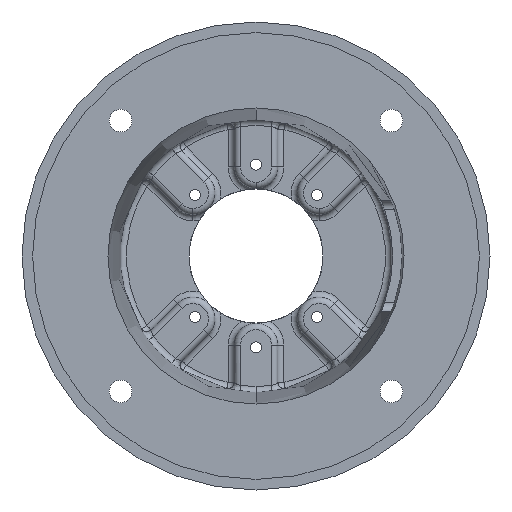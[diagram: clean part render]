
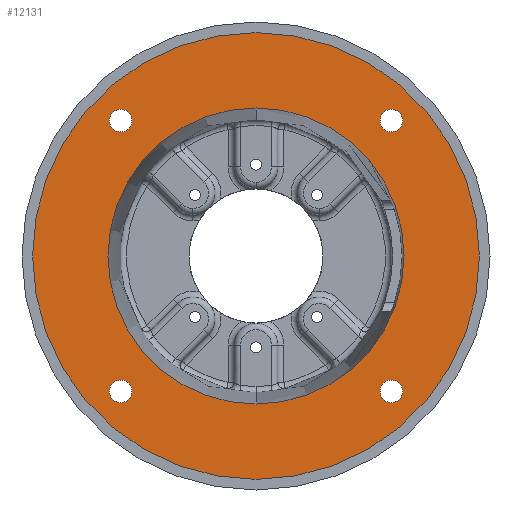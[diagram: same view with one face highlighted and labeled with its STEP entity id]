
A CAD part, front view. The second image highlights one B-rep face of the part: STEP entity #12131.
In plain terms, the highlighted planar face has unit normal (0, -1, 0).
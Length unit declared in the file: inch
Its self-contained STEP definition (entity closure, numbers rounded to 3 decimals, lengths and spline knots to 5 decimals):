
#52 = VERTEX_POINT ( 'NONE', #5009 ) ;
#292 = CARTESIAN_POINT ( 'NONE',  ( 0., 0.18, 5.2505 ) ) ;
#504 = EDGE_CURVE ( 'NONE', #12683, #8156, #12956, .T. ) ;
#553 = EDGE_CURVE ( 'NONE', #52, #11921, #3878, .T. ) ;
#559 = CIRCLE ( 'NONE', #5898, 0.26562 ) ;
#734 = CARTESIAN_POINT ( 'NONE',  ( 3.18198, 0.18, 3.18198 ) ) ;
#1003 = AXIS2_PLACEMENT_3D ( 'NONE', #4483, #4469, #4449 ) ;
#1056 = DIRECTION ( 'NONE',  ( 0., -1., 0. ) ) ;
#1098 = EDGE_CURVE ( 'NONE', #12858, #9144, #5589, .T. ) ;
#1247 = FACE_BOUND ( 'NONE', #11227, .T. ) ;
#1255 = EDGE_CURVE ( 'NONE', #11921, #52, #1951, .T. ) ;
#1276 = EDGE_LOOP ( 'NONE', ( #12223, #11720 ) ) ;
#1343 = CARTESIAN_POINT ( 'NONE',  ( 0., 0.18, 0. ) ) ;
#1382 = DIRECTION ( 'NONE',  ( 0., -1., 0. ) ) ;
#1600 = CIRCLE ( 'NONE', #2992, 0.26562 ) ;
#1778 = CARTESIAN_POINT ( 'NONE',  ( -3.18198, 0.18, -3.44761 ) ) ;
#1882 = DIRECTION ( 'NONE',  ( 0., 0., -1. ) ) ;
#1951 = CIRCLE ( 'NONE', #12680, 0.26562 ) ;
#2476 = DIRECTION ( 'NONE',  ( 0., 0., -1. ) ) ;
#2675 = CIRCLE ( 'NONE', #10483, 5.2505 ) ;
#2813 = DIRECTION ( 'NONE',  ( 0., 0., -1. ) ) ;
#2865 = DIRECTION ( 'NONE',  ( 0., -1., 0. ) ) ;
#2880 = ORIENTED_EDGE ( 'NONE', *, *, #1098, .F. ) ;
#2925 = EDGE_CURVE ( 'NONE', #8567, #10493, #3187, .T. ) ;
#2926 = CARTESIAN_POINT ( 'NONE',  ( -3.18198, 0.18, 2.91636 ) ) ;
#2969 = AXIS2_PLACEMENT_3D ( 'NONE', #9568, #3109, #10621 ) ;
#2992 = AXIS2_PLACEMENT_3D ( 'NONE', #3298, #10791, #4428 ) ;
#3036 = EDGE_LOOP ( 'NONE', ( #11424, #5310 ) ) ;
#3109 = DIRECTION ( 'NONE',  ( 0., -1., 0. ) ) ;
#3187 = CIRCLE ( 'NONE', #2969, 0.26562 ) ;
#3298 = CARTESIAN_POINT ( 'NONE',  ( -3.18198, 0.18, -3.18198 ) ) ;
#3632 = VERTEX_POINT ( 'NONE', #292 ) ;
#3797 = CARTESIAN_POINT ( 'NONE',  ( -3.18198, 0.18, 3.18198 ) ) ;
#3878 = CIRCLE ( 'NONE', #1003, 0.26562 ) ;
#4389 = CARTESIAN_POINT ( 'NONE',  ( 0., 0.18, 0. ) ) ;
#4428 = DIRECTION ( 'NONE',  ( 0., 0., -1. ) ) ;
#4449 = DIRECTION ( 'NONE',  ( 0., 0., -1. ) ) ;
#4469 = DIRECTION ( 'NONE',  ( 0., -1., 0. ) ) ;
#4483 = CARTESIAN_POINT ( 'NONE',  ( 3.18198, 0.18, -3.18198 ) ) ;
#4604 = DIRECTION ( 'NONE',  ( 0., 1., 0. ) ) ;
#4949 = AXIS2_PLACEMENT_3D ( 'NONE', #3797, #2865, #2813 ) ;
#5009 = CARTESIAN_POINT ( 'NONE',  ( 3.18198, 0.18, -2.91636 ) ) ;
#5190 = EDGE_CURVE ( 'NONE', #10493, #8567, #1600, .T. ) ;
#5310 = ORIENTED_EDGE ( 'NONE', *, *, #553, .F. ) ;
#5503 = PLANE ( 'NONE',  #8577 ) ;
#5582 = CARTESIAN_POINT ( 'NONE',  ( 0., 0.18, 0. ) ) ;
#5589 = CIRCLE ( 'NONE', #4949, 0.26562 ) ;
#5676 = ORIENTED_EDGE ( 'NONE', *, *, #9230, .T. ) ;
#5846 = DIRECTION ( 'NONE',  ( 0., -1., 0. ) ) ;
#5898 = AXIS2_PLACEMENT_3D ( 'NONE', #12129, #5846, #13162 ) ;
#5963 = EDGE_LOOP ( 'NONE', ( #5676, #13440 ) ) ;
#6072 = CARTESIAN_POINT ( 'NONE',  ( 0., 0.18, -5.2505 ) ) ;
#6107 = CARTESIAN_POINT ( 'NONE',  ( 3.18198, 0.18, -3.44761 ) ) ;
#6110 = CARTESIAN_POINT ( 'NONE',  ( -3.18198, 0.18, 3.44761 ) ) ;
#6380 = VERTEX_POINT ( 'NONE', #13174 ) ;
#6592 = DIRECTION ( 'NONE',  ( 0., 0., -1. ) ) ;
#6606 = DIRECTION ( 'NONE',  ( 0., 1., 0. ) ) ;
#6671 = DIRECTION ( 'NONE',  ( 0., 0., -1. ) ) ;
#6698 = CARTESIAN_POINT ( 'NONE',  ( 0., 0.18, 0. ) ) ;
#6804 = CIRCLE ( 'NONE', #12602, 5.2505 ) ;
#7046 = ORIENTED_EDGE ( 'NONE', *, *, #12610, .F. ) ;
#7060 = EDGE_CURVE ( 'NONE', #9144, #12858, #10918, .T. ) ;
#7106 = FACE_BOUND ( 'NONE', #3036, .T. ) ;
#7221 = ORIENTED_EDGE ( 'NONE', *, *, #10068, .F. ) ;
#7323 = EDGE_LOOP ( 'NONE', ( #10519, #10323 ) ) ;
#7394 = CARTESIAN_POINT ( 'NONE',  ( 0., 0.18, 3.47973 ) ) ;
#7445 = FACE_BOUND ( 'NONE', #7471, .T. ) ;
#7471 = EDGE_LOOP ( 'NONE', ( #8684, #2880 ) ) ;
#7940 = CARTESIAN_POINT ( 'NONE',  ( -3.18198, 0.18, 3.18198 ) ) ;
#8156 = VERTEX_POINT ( 'NONE', #7394 ) ;
#8410 = DIRECTION ( 'NONE',  ( 0., -1., 0. ) ) ;
#8567 = VERTEX_POINT ( 'NONE', #12861 ) ;
#8577 = AXIS2_PLACEMENT_3D ( 'NONE', #4389, #1056, #8710 ) ;
#8684 = ORIENTED_EDGE ( 'NONE', *, *, #7060, .F. ) ;
#8710 = DIRECTION ( 'NONE',  ( 0., 0., -1. ) ) ;
#8774 = CIRCLE ( 'NONE', #9089, 3.47973 ) ;
#8967 = DIRECTION ( 'NONE',  ( 0., -1., 0. ) ) ;
#9002 = DIRECTION ( 'NONE',  ( 0., 0., -1. ) ) ;
#9089 = AXIS2_PLACEMENT_3D ( 'NONE', #10953, #4604, #11978 ) ;
#9144 = VERTEX_POINT ( 'NONE', #2926 ) ;
#9230 = EDGE_CURVE ( 'NONE', #12697, #3632, #6804, .T. ) ;
#9568 = CARTESIAN_POINT ( 'NONE',  ( -3.18198, 0.18, -3.18198 ) ) ;
#9575 = FACE_BOUND ( 'NONE', #7323, .T. ) ;
#9651 = VERTEX_POINT ( 'NONE', #12035 ) ;
#9748 = EDGE_CURVE ( 'NONE', #8156, #12683, #8774, .T. ) ;
#9802 = EDGE_CURVE ( 'NONE', #3632, #12697, #2675, .T. ) ;
#10068 = EDGE_CURVE ( 'NONE', #6380, #9651, #12007, .T. ) ;
#10220 = AXIS2_PLACEMENT_3D ( 'NONE', #734, #8410, #1882 ) ;
#10299 = DIRECTION ( 'NONE',  ( 0., 0., -1. ) ) ;
#10323 = ORIENTED_EDGE ( 'NONE', *, *, #9748, .T. ) ;
#10345 = DIRECTION ( 'NONE',  ( 0., -1., 0. ) ) ;
#10391 = CARTESIAN_POINT ( 'NONE',  ( 3.18198, 0.18, -3.18198 ) ) ;
#10483 = AXIS2_PLACEMENT_3D ( 'NONE', #1343, #8967, #2476 ) ;
#10493 = VERTEX_POINT ( 'NONE', #1778 ) ;
#10519 = ORIENTED_EDGE ( 'NONE', *, *, #504, .T. ) ;
#10621 = DIRECTION ( 'NONE',  ( 0., 0., -1. ) ) ;
#10791 = DIRECTION ( 'NONE',  ( 0., -1., 0. ) ) ;
#10918 = CIRCLE ( 'NONE', #12583, 0.26562 ) ;
#10953 = CARTESIAN_POINT ( 'NONE',  ( 0., 0.18, 0. ) ) ;
#11227 = EDGE_LOOP ( 'NONE', ( #7221, #7046 ) ) ;
#11236 = CARTESIAN_POINT ( 'NONE',  ( 0., 0.18, -3.47973 ) ) ;
#11424 = ORIENTED_EDGE ( 'NONE', *, *, #1255, .F. ) ;
#11720 = ORIENTED_EDGE ( 'NONE', *, *, #2925, .F. ) ;
#11921 = VERTEX_POINT ( 'NONE', #6107 ) ;
#11978 = DIRECTION ( 'NONE',  ( 0., 0., -1. ) ) ;
#12007 = CIRCLE ( 'NONE', #10220, 0.26562 ) ;
#12035 = CARTESIAN_POINT ( 'NONE',  ( 3.18198, 0.18, 3.44761 ) ) ;
#12129 = CARTESIAN_POINT ( 'NONE',  ( 3.18198, 0.18, 3.18198 ) ) ;
#12131 = ADVANCED_FACE ( 'NONE', ( #7445, #1247, #7106, #12624, #12305, #9575 ), #5503, .T. ) ;
#12223 = ORIENTED_EDGE ( 'NONE', *, *, #5190, .F. ) ;
#12305 = FACE_OUTER_BOUND ( 'NONE', #5963, .T. ) ;
#12583 = AXIS2_PLACEMENT_3D ( 'NONE', #7940, #1382, #9002 ) ;
#12602 = AXIS2_PLACEMENT_3D ( 'NONE', #5582, #12903, #6671 ) ;
#12610 = EDGE_CURVE ( 'NONE', #9651, #6380, #559, .T. ) ;
#12624 = FACE_BOUND ( 'NONE', #1276, .T. ) ;
#12680 = AXIS2_PLACEMENT_3D ( 'NONE', #10391, #10345, #10299 ) ;
#12683 = VERTEX_POINT ( 'NONE', #11236 ) ;
#12697 = VERTEX_POINT ( 'NONE', #6072 ) ;
#12858 = VERTEX_POINT ( 'NONE', #6110 ) ;
#12861 = CARTESIAN_POINT ( 'NONE',  ( -3.18198, 0.18, -2.91636 ) ) ;
#12903 = DIRECTION ( 'NONE',  ( 0., -1., 0. ) ) ;
#12956 = CIRCLE ( 'NONE', #13443, 3.47973 ) ;
#13162 = DIRECTION ( 'NONE',  ( 0., 0., -1. ) ) ;
#13174 = CARTESIAN_POINT ( 'NONE',  ( 3.18198, 0.18, 2.91636 ) ) ;
#13440 = ORIENTED_EDGE ( 'NONE', *, *, #9802, .T. ) ;
#13443 = AXIS2_PLACEMENT_3D ( 'NONE', #6698, #6606, #6592 ) ;
